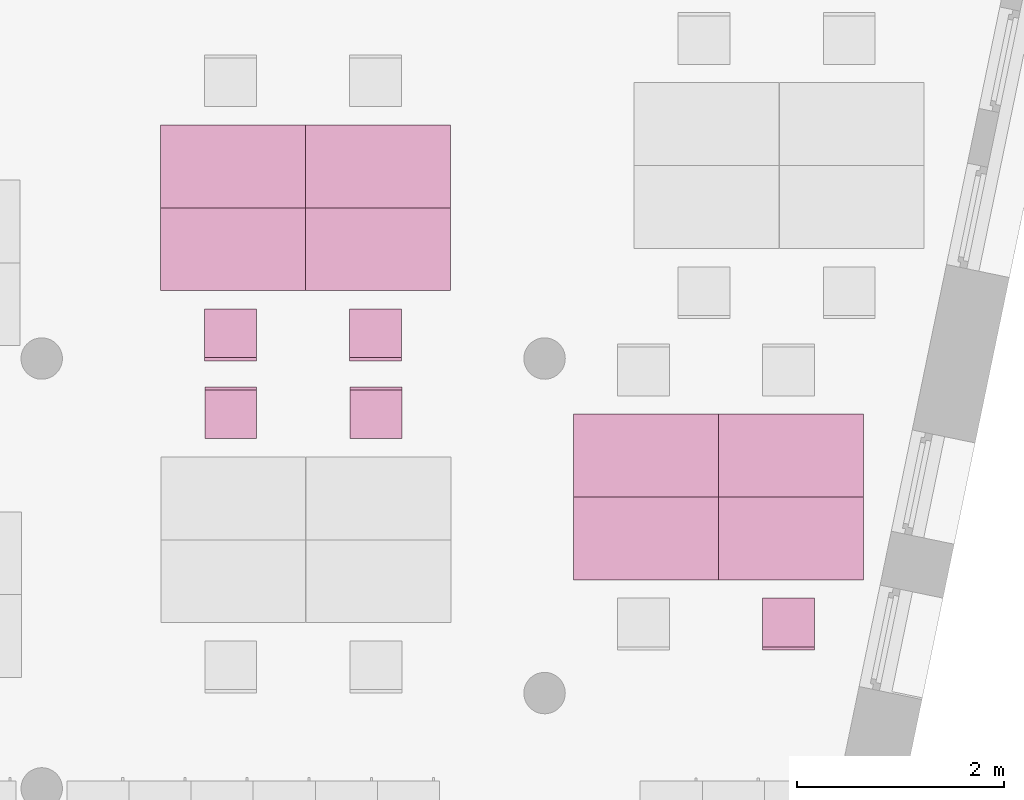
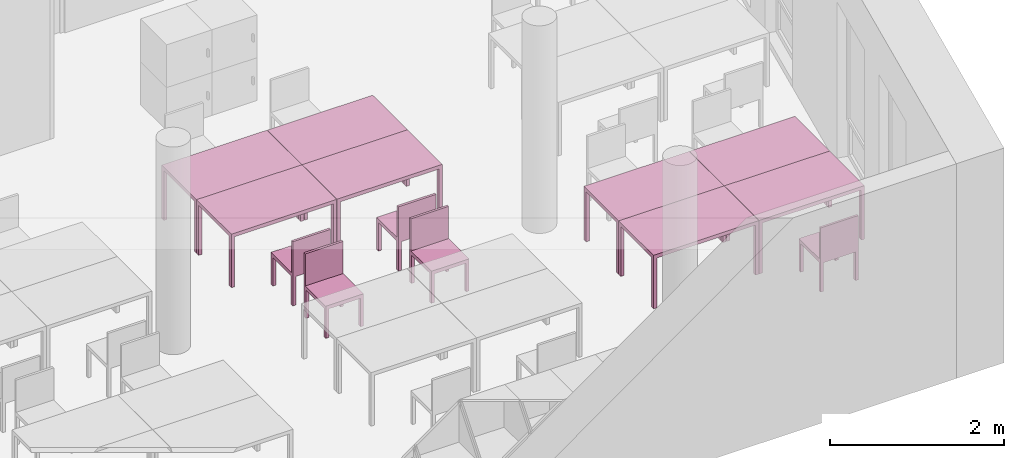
"""IFC4 building model written with IfcOpenShell, lengths in metres."""

import ifcopenshell
import ifcopenshell.guid

model = None  # the IFC model being written
_history = None  # IfcOwnerHistory: only IFC2X3 demands one
_inside = {}  # id of a spatial element -> (the spatial element, [elements in it])
_under = {}  # id of a project, library or spatial element -> (it, [spatial elements below it])
_declared = {}  # id of a project -> (the project, [libraries it declares])
_typed = {}  # id of a type object -> (the type object, [elements of that type])
_made_of = {}  # id of a material, layer set ... -> (it, [elements and type objects made of it])


def new_model(schema):
    """Start an empty IFC model of exactly this schema.

    Asked for "IFC4X3", IfcOpenShell would pick the latest addendum, in which some entities
    have other attributes; the version numbers below select the first issue.
    IFC2X3 requires an IfcOwnerHistory on every rooted entity: one is made here for all.
    """
    global model, _history
    if schema == "IFC4X3":
        model = ifcopenshell.file(schema_version=(4, 3, 0, 0))
    else:
        model = ifcopenshell.file(schema=schema)
    _inside.clear()
    _under.clear()
    _declared.clear()
    _typed.clear()
    _made_of.clear()
    _history = None
    if model.schema == "IFC2X3":
        org = make("IfcOrganization", Name="unknown")
        user = make(
            "IfcPersonAndOrganization",
            ThePerson=make("IfcPerson", FamilyName="unknown"),
            TheOrganization=org,
        )
        app = make(
            "IfcApplication",
            ApplicationDeveloper=org,
            Version="unknown",
            ApplicationFullName="unknown",
            ApplicationIdentifier="unknown",
        )
        _history = make(
            "IfcOwnerHistory",
            OwningUser=user,
            OwningApplication=app,
            ChangeAction="ADDED",
            CreationDate=0,
        )
    return model


def make(cls, **values):
    """One entity of the class cls with the attributes given. An attribute that is None is left unset."""
    return model.create_entity(
        cls, **{name: value for name, value in values.items() if value is not None}
    )


def entity(cls, *values):
    """Any entity or typed value of the class cls, its attributes in the order of the schema. None: left unset."""
    e = model.create_entity(cls)
    for i, value in enumerate(values):
        if value is not None:
            e[i] = value
    return e


def rooted(cls, **values):
    """An entity with a GlobalId (a new one), such as an element, a storey or a relation."""
    return make(cls, GlobalId=ifcopenshell.guid.new(), OwnerHistory=_history, **values)


def si_unit(unit_type, name, prefix=None):
    """IfcSIUnit, for example si_unit("LENGTHUNIT", "METRE", prefix="MILLI")."""
    return make("IfcSIUnit", UnitType=unit_type, Prefix=prefix, Name=name)


def converted_unit(unit_type, name, factor, base, dimensions=None, offset=None):
    """IfcConversionBasedUnit, such as the inch: factor (a typed value) times the base unit."""
    return make(
        "IfcConversionBasedUnit"
        if offset is None
        else "IfcConversionBasedUnitWithOffset",
        ConversionOffset=offset,
        Dimensions=None
        if dimensions is None
        else entity("IfcDimensionalExponents", *dimensions),
        UnitType=unit_type,
        Name=name,
        ConversionFactor=make(
            "IfcMeasureWithUnit", ValueComponent=factor, UnitComponent=base
        ),
    )


def derived_unit(unit_type, elements):
    """IfcDerivedUnit: a product of units, each with its exponent."""
    return make(
        "IfcDerivedUnit",
        Elements=[
            make("IfcDerivedUnitElement", Unit=unit, Exponent=power)
            for unit, power in elements
        ],
        UnitType=unit_type,
    )


def assignment(units):
    """IfcUnitAssignment: the units of a project."""
    return None if units is None else make("IfcUnitAssignment", Units=units)


def point(xyz):
    """IfcCartesianPoint."""
    return None if xyz is None else make("IfcCartesianPoint", Coordinates=xyz)


def direction(xyz):
    """IfcDirection."""
    return None if xyz is None else make("IfcDirection", DirectionRatios=xyz)


def frame(location, z_axis=None, x_axis=None):
    """IfcAxis2Placement3D, a coordinate frame: its origin and axes. An axis left out is left unset."""
    return make(
        "IfcAxis2Placement3D",
        Location=point(location),
        Axis=direction(z_axis),
        RefDirection=direction(x_axis),
    )


def origin():
    """The frame at (0, 0, 0) with its axes left unset."""
    return frame((0.0, 0.0, 0.0))


def place(relative_to, where):
    """IfcLocalPlacement: puts the frame where relative to a parent placement (None: the world)."""
    return make(
        "IfcLocalPlacement", PlacementRelTo=relative_to, RelativePlacement=where
    )


def context(
    kind, dimensions, precision=None, world=None, true_north=None, identifier=None
):
    """IfcGeometricRepresentationContext, for example the 3D "Model" context."""
    return make(
        "IfcGeometricRepresentationContext",
        ContextIdentifier=identifier,
        ContextType=kind,
        CoordinateSpaceDimension=dimensions,
        Precision=precision,
        WorldCoordinateSystem=world,
        TrueNorth=true_north,
    )


def subcontext(parent, identifier, kind, view, scale=None):
    """IfcGeometricRepresentationSubContext, for example "Body" below "Model"."""
    return make(
        "IfcGeometricRepresentationSubContext",
        ContextIdentifier=identifier,
        ContextType=kind,
        ParentContext=parent,
        TargetScale=scale,
        TargetView=view,
    )


def project(units=None, contexts=None):
    """IfcProject with its units and contexts."""
    return rooted(
        "IfcProject",
        Name="project",
        RepresentationContexts=contexts,
        UnitsInContext=assignment(units),
    )


def spatial(cls, under=None, at=None, **own):
    """A site, building, storey or space (cls), placed at a placement, below another one or the project."""
    s = rooted(cls, ObjectPlacement=at, **own)
    if under is not None:
        _under.setdefault(under.id(), (under, []))[1].append(s)
    return s


def faces_of(points, faces, orient=None, outer=None):
    """IfcFace entities. A face is a list of loops; a loop is a list of indices into points, from 0.

    orient and outer hold one flag for each loop. By default every Orientation is true, the
    first loop of a face is its IfcFaceOuterBound and the others are IfcFaceBound.
    """
    made = []
    for i, loops in enumerate(faces):
        bounds = []
        for j, loop in enumerate(loops):
            is_outer = j == 0 if outer is None else outer[i][j]
            bounds.append(
                make(
                    "IfcFaceOuterBound" if is_outer else "IfcFaceBound",
                    Bound=make("IfcPolyLoop", Polygon=[points[k] for k in loop]),
                    Orientation=True if orient is None else orient[i][j],
                )
            )
        made.append(make("IfcFace", Bounds=bounds))
    return made


def faceted_brep(points, faces, orient=None, outer=None, voids=None):
    """IfcFacetedBrep: a solid bounded by flat faces; with voids (closed shells), ...WithVoids."""
    shared = [point(p) for p in points]
    hull = make("IfcClosedShell", CfsFaces=faces_of(shared, faces, orient, outer))
    if voids is None:
        return make("IfcFacetedBrep", Outer=hull)
    return make(
        "IfcFacetedBrepWithVoids",
        Outer=hull,
        Voids=[
            make(cls, CfsFaces=faces_of(shared, fs, o, b)) for cls, fs, o, b in voids
        ],
    )


def shape(context_of_items, identifier, shape_type, items):
    """IfcShapeRepresentation: the items that make up one representation, for example the "Body"."""
    return make(
        "IfcShapeRepresentation",
        ContextOfItems=context_of_items,
        RepresentationIdentifier=identifier,
        RepresentationType=shape_type,
        Items=items,
    )


def made_of(thing, what):
    """Note that an element or type object is made of a material, layer set ...; save() writes the relation."""
    if what is not None:
        _made_of.setdefault(what.id(), (what, []))[1].append(thing)
    return thing


def element(
    cls,
    number,
    at=None,
    inside=None,
    cuts=None,
    type_object=None,
    material=None,
    context=None,
    identifier="Body",
    shape_type=None,
    held_by="IfcProductDefinitionShape",
    body=None,
    shapes=None,
    **own,
):
    """One element of the class cls, such as IfcWall. Its Tag is "e" and its number.

    at: its placement. inside: the storey or other place that contains it. cuts: it is an
    opening in that element (IfcRelVoidsElement). A single representation is given by context,
    identifier, shape_type and body (its items); several are given by shapes. held_by: the class
    of the entity that holds the representations. save() writes the other relations.
    """
    e = rooted(cls, Tag="e%d" % number, ObjectPlacement=at, **own)
    if body is not None:
        shapes = [shape(context, identifier, shape_type, body)]
    if shapes is not None:
        e.Representation = make(held_by, Representations=shapes)
    if inside is not None:
        _inside.setdefault(inside.id(), (inside, []))[1].append(e)
    if cuts is not None:
        rooted(
            "IfcRelVoidsElement", RelatingBuildingElement=cuts, RelatedOpeningElement=e
        )
    if type_object is not None:
        _typed.setdefault(type_object.id(), (type_object, []))[1].append(e)
    return made_of(e, material)


def aggregate(whole, parts):
    """IfcRelAggregates: a whole, such as a stair, and the parts it consists of."""
    return rooted("IfcRelAggregates", RelatingObject=whole, RelatedObjects=parts)


def save(model, path):
    """Write the relations noted so far, then the file.

    IfcRelAggregates (storeys below a building ...), IfcRelContainedInSpatialStructure (elements
    in a storey), IfcRelDefinesByType, IfcRelAssociatesMaterial and IfcRelDeclares: one each for
    every whole, place, type object, material and project.
    """
    for whole, parts in _under.values():
        aggregate(whole, parts)
    for where, things in _inside.values():
        rooted(
            "IfcRelContainedInSpatialStructure",
            RelatedElements=things,
            RelatingStructure=where,
        )
    for kind, things in _typed.values():
        rooted("IfcRelDefinesByType", RelatedObjects=things, RelatingType=kind)
    for what, things in _made_of.values():
        rooted("IfcRelAssociatesMaterial", RelatedObjects=things, RelatingMaterial=what)
    for by, libraries in _declared.values():
        rooted("IfcRelDeclares", RelatingContext=by, RelatedDefinitions=libraries)
    model.write(path)


model = new_model("IFC4")

# Units and contexts
model_context = context("Model", 3, precision=1e-05, world=origin())
body_context = subcontext(model_context, "Body", "Model", "MODEL_VIEW")
ifc_project = project(units=[si_unit("LENGTHUNIT", "METRE"), si_unit("AREAUNIT", "SQUARE_METRE"), si_unit("VOLUMEUNIT", "CUBIC_METRE"), si_unit("MASSUNIT", "GRAM", prefix="KILO"), converted_unit("PLANEANGLEUNIT", "DEGREE", entity("IfcPlaneAngleMeasure", 0.0174532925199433), si_unit("PLANEANGLEUNIT", "RADIAN"), dimensions=[0, 0, 0, 0, 0, 0, 0]), derived_unit("THERMALTRANSMITTANCEUNIT", [(si_unit("POWERUNIT", "WATT"), 1), (si_unit("THERMODYNAMICTEMPERATUREUNIT", "KELVIN"), -1), (si_unit("LENGTHUNIT", "METRE"), -2)]), derived_unit("VOLUMETRICFLOWRATEUNIT", [(si_unit("LENGTHUNIT", "METRE"), 3), (converted_unit("TIMEUNIT", "hour", entity("IfcTimeMeasure", 3600.0), si_unit("TIMEUNIT", "SECOND"), dimensions=[0, 0, 1, 0, 0, 0, 0]), -1), (si_unit("LENGTHUNIT", "METRE"), -1)])], contexts=[model_context])

# Building, storeys
building_placement = place(None, origin())
building = spatial("IfcBuilding", under=ifc_project, at=building_placement, Name="HABITATGE PLURIFAMILIAR", CompositionType="ELEMENT")
storey_1_placement = place(building_placement, frame((0.0, 0.0, 18.29)))
storey_1 = spatial("IfcBuildingStorey", under=building, at=storey_1_placement, Name="PLANTA CINQUENA", CompositionType="ELEMENT", Elevation=18.29)
storey_2_placement = place(storey_1_placement, frame((0.0, 0.0, 15.28)))
storey_2 = spatial("IfcBuildingStorey", under=storey_1, at=storey_2_placement, Name="NOU", CompositionType="PARTIAL")

# Furniture
furniture_1_placement = place(storey_2_placement, frame((418.685770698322, 19.254289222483, -15.28)))
element("IfcFurniture", 1, at=furniture_1_placement, inside=storey_2, Name="Taula 140X80_P5", context=body_context, shape_type="Brep", body=[
    faceted_brep([(0.04375, 0.05, 0.0), (0.0, 0.05, 0.0), (0.0, 0.0, 0.0), (0.04375, 0.0, 0.0), (0.04375, 0.0, 0.7), (0.0, 0.0, 0.7), (0.0, 0.05, 0.7), (0.04375, 0.05, 0.7)], [[[0, 1, 2, 3]], [[4, 5, 6, 7]], [[3, 4, 7, 0]], [[2, 5, 4, 3]], [[1, 6, 5, 2]], [[0, 7, 6, 1]]], orient=[[False], [False], [False], [False], [False], [False]]),
    faceted_brep([(0.04375, 0.800069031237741, 0.0), (0.0, 0.800069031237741, 0.0), (0.0, 0.750069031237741, 0.0), (0.04375, 0.750069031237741, 0.0), (0.04375, 0.750069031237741, 0.7), (0.0, 0.750069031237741, 0.7), (0.0, 0.800069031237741, 0.7), (0.04375, 0.800069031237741, 0.7)], [[[0, 1, 2, 3]], [[4, 5, 6, 7]], [[3, 4, 7, 0]], [[2, 5, 4, 3]], [[1, 6, 5, 2]], [[0, 7, 6, 1]]], orient=[[False], [False], [False], [False], [False], [False]]),
    faceted_brep([(1.39732768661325, 0.800069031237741, 0.7), (0.0, 0.800069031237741, 0.7), (0.0, 0.0, 0.7), (1.39732768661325, 0.0, 0.7), (1.39732768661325, 0.0, 0.75), (0.0, 0.0, 0.75), (0.0, 0.800069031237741, 0.75), (1.39732768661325, 0.800069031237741, 0.75)], [[[0, 1, 2, 3]], [[4, 5, 6, 7]], [[3, 4, 7, 0]], [[2, 5, 4, 3]], [[1, 6, 5, 2]], [[0, 7, 6, 1]]], orient=[[False], [False], [False], [False], [False], [False]]),
    faceted_brep([(1.39732768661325, 0.05, 0.0), (1.35357768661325, 0.05, 0.0), (1.35357768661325, 0.0, 0.0), (1.39732768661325, 0.0, 0.0), (1.39732768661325, 0.0, 0.7), (1.35357768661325, 0.0, 0.7), (1.35357768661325, 0.05, 0.7), (1.39732768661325, 0.05, 0.7)], [[[0, 1, 2, 3]], [[4, 5, 6, 7]], [[3, 4, 7, 0]], [[2, 5, 4, 3]], [[1, 6, 5, 2]], [[0, 7, 6, 1]]], orient=[[False], [False], [False], [False], [False], [False]]),
    faceted_brep([(1.39732768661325, 0.800069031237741, 0.0), (1.35357768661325, 0.800069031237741, 0.0), (1.35357768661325, 0.750069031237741, 0.0), (1.39732768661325, 0.750069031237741, 0.0), (1.39732768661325, 0.750069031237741, 0.7), (1.35357768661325, 0.750069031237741, 0.7), (1.35357768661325, 0.800069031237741, 0.7), (1.39732768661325, 0.800069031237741, 0.7)], [[[0, 1, 2, 3]], [[4, 5, 6, 7]], [[3, 4, 7, 0]], [[2, 5, 4, 3]], [[1, 6, 5, 2]], [[0, 7, 6, 1]]], orient=[[False], [False], [False], [False], [False], [False]]),
])
furniture_2_placement = place(storey_2_placement, frame((417.284591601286, 19.254289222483, -15.28)))
element("IfcFurniture", 2, at=furniture_2_placement, inside=storey_2, Name="Taula 140X80_P5", context=body_context, shape_type="Brep", body=[
    faceted_brep([(0.04375, 0.05, 0.0), (0.0, 0.05, 0.0), (0.0, 0.0, 0.0), (0.04375, 0.0, 0.0), (0.04375, 0.0, 0.7), (0.0, 0.0, 0.7), (0.0, 0.05, 0.7), (0.04375, 0.05, 0.7)], [[[0, 1, 2, 3]], [[4, 5, 6, 7]], [[3, 4, 7, 0]], [[2, 5, 4, 3]], [[1, 6, 5, 2]], [[0, 7, 6, 1]]], orient=[[False], [False], [False], [False], [False], [False]]),
    faceted_brep([(0.04375, 0.800069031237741, 0.0), (0.0, 0.800069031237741, 0.0), (0.0, 0.750069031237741, 0.0), (0.04375, 0.750069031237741, 0.0), (0.04375, 0.750069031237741, 0.7), (0.0, 0.750069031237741, 0.7), (0.0, 0.800069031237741, 0.7), (0.04375, 0.800069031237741, 0.7)], [[[0, 1, 2, 3]], [[4, 5, 6, 7]], [[3, 4, 7, 0]], [[2, 5, 4, 3]], [[1, 6, 5, 2]], [[0, 7, 6, 1]]], orient=[[False], [False], [False], [False], [False], [False]]),
    faceted_brep([(1.39732768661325, 0.800069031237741, 0.7), (0.0, 0.800069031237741, 0.7), (0.0, 0.0, 0.7), (1.39732768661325, 0.0, 0.7), (1.39732768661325, 0.0, 0.75), (0.0, 0.0, 0.75), (0.0, 0.800069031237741, 0.75), (1.39732768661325, 0.800069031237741, 0.75)], [[[0, 1, 2, 3]], [[4, 5, 6, 7]], [[3, 4, 7, 0]], [[2, 5, 4, 3]], [[1, 6, 5, 2]], [[0, 7, 6, 1]]], orient=[[False], [False], [False], [False], [False], [False]]),
    faceted_brep([(1.39732768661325, 0.05, 0.0), (1.35357768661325, 0.05, 0.0), (1.35357768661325, 0.0, 0.0), (1.39732768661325, 0.0, 0.0), (1.39732768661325, 0.0, 0.7), (1.35357768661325, 0.0, 0.7), (1.35357768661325, 0.05, 0.7), (1.39732768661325, 0.05, 0.7)], [[[0, 1, 2, 3]], [[4, 5, 6, 7]], [[3, 4, 7, 0]], [[2, 5, 4, 3]], [[1, 6, 5, 2]], [[0, 7, 6, 1]]], orient=[[False], [False], [False], [False], [False], [False]]),
    faceted_brep([(1.39732768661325, 0.800069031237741, 0.0), (1.35357768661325, 0.800069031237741, 0.0), (1.35357768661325, 0.750069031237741, 0.0), (1.39732768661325, 0.750069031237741, 0.0), (1.39732768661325, 0.750069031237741, 0.7), (1.35357768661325, 0.750069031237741, 0.7), (1.35357768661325, 0.800069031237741, 0.7), (1.39732768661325, 0.800069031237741, 0.7)], [[[0, 1, 2, 3]], [[4, 5, 6, 7]], [[3, 4, 7, 0]], [[2, 5, 4, 3]], [[1, 6, 5, 2]], [[0, 7, 6, 1]]], orient=[[False], [False], [False], [False], [False], [False]]),
])
furniture_3_placement = place(storey_2_placement, frame((418.685770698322, 18.4542201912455, -15.28)))
element("IfcFurniture", 3, at=furniture_3_placement, inside=storey_2, Name="Taula 140X80_P5", context=body_context, shape_type="Brep", body=[
    faceted_brep([(0.04375, 0.750069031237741, 0.0), (0.04375, 0.800069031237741, 0.0), (0.0, 0.800069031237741, 0.0), (0.0, 0.750069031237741, 0.0), (0.04375, 0.800069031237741, 0.7), (0.04375, 0.750069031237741, 0.7), (0.0, 0.750069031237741, 0.7), (0.0, 0.800069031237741, 0.7)], [[[0, 1, 2, 3]], [[4, 5, 6, 7]], [[1, 0, 5, 4]], [[2, 1, 4, 7]], [[3, 2, 7, 6]], [[0, 3, 6, 5]]], orient=[[False], [False], [False], [False], [False], [False]]),
    faceted_brep([(0.04375, 0.0, 0.0), (0.04375, 0.05, 0.0), (0.0, 0.05, 0.0), (0.0, 0.0, 0.0), (0.04375, 0.05, 0.7), (0.04375, 0.0, 0.7), (0.0, 0.0, 0.7), (0.0, 0.05, 0.7)], [[[0, 1, 2, 3]], [[4, 5, 6, 7]], [[1, 0, 5, 4]], [[2, 1, 4, 7]], [[3, 2, 7, 6]], [[0, 3, 6, 5]]], orient=[[False], [False], [False], [False], [False], [False]]),
    faceted_brep([(1.39732768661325, 0.0, 0.7), (1.39732768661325, 0.800069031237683, 0.7), (0.0, 0.800069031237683, 0.7), (0.0, 0.0, 0.7), (1.39732768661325, 0.800069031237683, 0.75), (1.39732768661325, 0.0, 0.75), (0.0, 0.0, 0.75), (0.0, 0.800069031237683, 0.75)], [[[0, 1, 2, 3]], [[4, 5, 6, 7]], [[1, 0, 5, 4]], [[2, 1, 4, 7]], [[3, 2, 7, 6]], [[0, 3, 6, 5]]], orient=[[False], [False], [False], [False], [False], [False]]),
    faceted_brep([(1.39732768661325, 0.750069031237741, 0.0), (1.39732768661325, 0.800069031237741, 0.0), (1.35357768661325, 0.800069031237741, 0.0), (1.35357768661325, 0.750069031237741, 0.0), (1.39732768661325, 0.800069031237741, 0.7), (1.39732768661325, 0.750069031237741, 0.7), (1.35357768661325, 0.750069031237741, 0.7), (1.35357768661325, 0.800069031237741, 0.7)], [[[0, 1, 2, 3]], [[4, 5, 6, 7]], [[1, 0, 5, 4]], [[2, 1, 4, 7]], [[3, 2, 7, 6]], [[0, 3, 6, 5]]], orient=[[False], [False], [False], [False], [False], [False]]),
    faceted_brep([(1.39732768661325, 0.0, 0.0), (1.39732768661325, 0.05, 0.0), (1.35357768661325, 0.05, 0.0), (1.35357768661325, 0.0, 0.0), (1.39732768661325, 0.05, 0.7), (1.39732768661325, 0.0, 0.7), (1.35357768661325, 0.0, 0.7), (1.35357768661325, 0.05, 0.7)], [[[0, 1, 2, 3]], [[4, 5, 6, 7]], [[1, 0, 5, 4]], [[2, 1, 4, 7]], [[3, 2, 7, 6]], [[0, 3, 6, 5]]], orient=[[False], [False], [False], [False], [False], [False]]),
])
furniture_4_placement = place(storey_2_placement, frame((417.284591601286, 18.4542201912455, -15.28)))
element("IfcFurniture", 4, at=furniture_4_placement, inside=storey_2, Name="Taula 140X80_P5", context=body_context, shape_type="Brep", body=[
    faceted_brep([(0.04375, 0.750069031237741, 0.0), (0.04375, 0.800069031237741, 0.0), (0.0, 0.800069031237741, 0.0), (0.0, 0.750069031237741, 0.0), (0.04375, 0.800069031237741, 0.7), (0.04375, 0.750069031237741, 0.7), (0.0, 0.750069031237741, 0.7), (0.0, 0.800069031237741, 0.7)], [[[0, 1, 2, 3]], [[4, 5, 6, 7]], [[1, 0, 5, 4]], [[2, 1, 4, 7]], [[3, 2, 7, 6]], [[0, 3, 6, 5]]], orient=[[False], [False], [False], [False], [False], [False]]),
    faceted_brep([(0.04375, 0.0, 0.0), (0.04375, 0.05, 0.0), (0.0, 0.05, 0.0), (0.0, 0.0, 0.0), (0.04375, 0.05, 0.7), (0.04375, 0.0, 0.7), (0.0, 0.0, 0.7), (0.0, 0.05, 0.7)], [[[0, 1, 2, 3]], [[4, 5, 6, 7]], [[1, 0, 5, 4]], [[2, 1, 4, 7]], [[3, 2, 7, 6]], [[0, 3, 6, 5]]], orient=[[False], [False], [False], [False], [False], [False]]),
    faceted_brep([(1.39732768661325, 0.0, 0.7), (1.39732768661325, 0.800069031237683, 0.7), (0.0, 0.800069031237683, 0.7), (0.0, 0.0, 0.7), (1.39732768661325, 0.800069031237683, 0.75), (1.39732768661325, 0.0, 0.75), (0.0, 0.0, 0.75), (0.0, 0.800069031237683, 0.75)], [[[0, 1, 2, 3]], [[4, 5, 6, 7]], [[1, 0, 5, 4]], [[2, 1, 4, 7]], [[3, 2, 7, 6]], [[0, 3, 6, 5]]], orient=[[False], [False], [False], [False], [False], [False]]),
    faceted_brep([(1.39732768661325, 0.750069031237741, 0.0), (1.39732768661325, 0.800069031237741, 0.0), (1.35357768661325, 0.800069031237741, 0.0), (1.35357768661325, 0.750069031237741, 0.0), (1.39732768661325, 0.800069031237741, 0.7), (1.39732768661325, 0.750069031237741, 0.7), (1.35357768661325, 0.750069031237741, 0.7), (1.35357768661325, 0.800069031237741, 0.7)], [[[0, 1, 2, 3]], [[4, 5, 6, 7]], [[1, 0, 5, 4]], [[2, 1, 4, 7]], [[3, 2, 7, 6]], [[0, 3, 6, 5]]], orient=[[False], [False], [False], [False], [False], [False]]),
    faceted_brep([(1.39732768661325, 0.0, 0.0), (1.39732768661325, 0.05, 0.0), (1.35357768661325, 0.05, 0.0), (1.35357768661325, 0.0, 0.0), (1.39732768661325, 0.05, 0.7), (1.39732768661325, 0.0, 0.7), (1.35357768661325, 0.0, 0.7), (1.35357768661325, 0.05, 0.7)], [[[0, 1, 2, 3]], [[4, 5, 6, 7]], [[1, 0, 5, 4]], [[2, 1, 4, 7]], [[3, 2, 7, 6]], [[0, 3, 6, 5]]], orient=[[False], [False], [False], [False], [False], [False]]),
])
furniture_5_placement = place(storey_2_placement, frame((422.673280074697, 16.4621130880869, -15.28)))
element("IfcFurniture", 5, at=furniture_5_placement, inside=storey_2, Name="Taula 140X80_P5", context=body_context, shape_type="Brep", body=[
    faceted_brep([(0.04375, 0.05, 0.0), (0.0, 0.05, 0.0), (0.0, 0.0, 0.0), (0.04375, 0.0, 0.0), (0.04375, 0.0, 0.7), (0.0, 0.0, 0.7), (0.0, 0.05, 0.7), (0.04375, 0.05, 0.7)], [[[0, 1, 2, 3]], [[4, 5, 6, 7]], [[3, 4, 7, 0]], [[2, 5, 4, 3]], [[1, 6, 5, 2]], [[0, 7, 6, 1]]], orient=[[False], [False], [False], [False], [False], [False]]),
    faceted_brep([(0.04375, 0.800069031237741, 0.0), (0.0, 0.800069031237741, 0.0), (0.0, 0.750069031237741, 0.0), (0.04375, 0.750069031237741, 0.0), (0.04375, 0.750069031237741, 0.7), (0.0, 0.750069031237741, 0.7), (0.0, 0.800069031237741, 0.7), (0.04375, 0.800069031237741, 0.7)], [[[0, 1, 2, 3]], [[4, 5, 6, 7]], [[3, 4, 7, 0]], [[2, 5, 4, 3]], [[1, 6, 5, 2]], [[0, 7, 6, 1]]], orient=[[False], [False], [False], [False], [False], [False]]),
    faceted_brep([(1.39732768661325, 0.800069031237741, 0.7), (0.0, 0.800069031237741, 0.7), (0.0, 0.0, 0.7), (1.39732768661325, 0.0, 0.7), (1.39732768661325, 0.0, 0.75), (0.0, 0.0, 0.75), (0.0, 0.800069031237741, 0.75), (1.39732768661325, 0.800069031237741, 0.75)], [[[0, 1, 2, 3]], [[4, 5, 6, 7]], [[3, 4, 7, 0]], [[2, 5, 4, 3]], [[1, 6, 5, 2]], [[0, 7, 6, 1]]], orient=[[False], [False], [False], [False], [False], [False]]),
    faceted_brep([(1.39732768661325, 0.05, 0.0), (1.35357768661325, 0.05, 0.0), (1.35357768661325, 0.0, 0.0), (1.39732768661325, 0.0, 0.0), (1.39732768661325, 0.0, 0.7), (1.35357768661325, 0.0, 0.7), (1.35357768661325, 0.05, 0.7), (1.39732768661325, 0.05, 0.7)], [[[0, 1, 2, 3]], [[4, 5, 6, 7]], [[3, 4, 7, 0]], [[2, 5, 4, 3]], [[1, 6, 5, 2]], [[0, 7, 6, 1]]], orient=[[False], [False], [False], [False], [False], [False]]),
    faceted_brep([(1.39732768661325, 0.800069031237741, 0.0), (1.35357768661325, 0.800069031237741, 0.0), (1.35357768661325, 0.750069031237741, 0.0), (1.39732768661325, 0.750069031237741, 0.0), (1.39732768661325, 0.750069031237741, 0.7), (1.35357768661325, 0.750069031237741, 0.7), (1.35357768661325, 0.800069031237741, 0.7), (1.39732768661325, 0.800069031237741, 0.7)], [[[0, 1, 2, 3]], [[4, 5, 6, 7]], [[3, 4, 7, 0]], [[2, 5, 4, 3]], [[1, 6, 5, 2]], [[0, 7, 6, 1]]], orient=[[False], [False], [False], [False], [False], [False]]),
])
furniture_6_placement = place(storey_2_placement, frame((421.272100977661, 16.4621130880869, -15.28)))
element("IfcFurniture", 6, at=furniture_6_placement, inside=storey_2, Name="Taula 140X80_P5", context=body_context, shape_type="Brep", body=[
    faceted_brep([(0.04375, 0.05, 0.0), (0.0, 0.05, 0.0), (0.0, 0.0, 0.0), (0.04375, 0.0, 0.0), (0.04375, 0.0, 0.7), (0.0, 0.0, 0.7), (0.0, 0.05, 0.7), (0.04375, 0.05, 0.7)], [[[0, 1, 2, 3]], [[4, 5, 6, 7]], [[3, 4, 7, 0]], [[2, 5, 4, 3]], [[1, 6, 5, 2]], [[0, 7, 6, 1]]], orient=[[False], [False], [False], [False], [False], [False]]),
    faceted_brep([(0.04375, 0.800069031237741, 0.0), (0.0, 0.800069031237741, 0.0), (0.0, 0.750069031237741, 0.0), (0.04375, 0.750069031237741, 0.0), (0.04375, 0.750069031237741, 0.7), (0.0, 0.750069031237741, 0.7), (0.0, 0.800069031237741, 0.7), (0.04375, 0.800069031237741, 0.7)], [[[0, 1, 2, 3]], [[4, 5, 6, 7]], [[3, 4, 7, 0]], [[2, 5, 4, 3]], [[1, 6, 5, 2]], [[0, 7, 6, 1]]], orient=[[False], [False], [False], [False], [False], [False]]),
    faceted_brep([(1.39732768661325, 0.800069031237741, 0.7), (0.0, 0.800069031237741, 0.7), (0.0, 0.0, 0.7), (1.39732768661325, 0.0, 0.7), (1.39732768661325, 0.0, 0.75), (0.0, 0.0, 0.75), (0.0, 0.800069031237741, 0.75), (1.39732768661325, 0.800069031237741, 0.75)], [[[0, 1, 2, 3]], [[4, 5, 6, 7]], [[3, 4, 7, 0]], [[2, 5, 4, 3]], [[1, 6, 5, 2]], [[0, 7, 6, 1]]], orient=[[False], [False], [False], [False], [False], [False]]),
    faceted_brep([(1.39732768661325, 0.05, 0.0), (1.35357768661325, 0.05, 0.0), (1.35357768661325, 0.0, 0.0), (1.39732768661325, 0.0, 0.0), (1.39732768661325, 0.0, 0.7), (1.35357768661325, 0.0, 0.7), (1.35357768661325, 0.05, 0.7), (1.39732768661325, 0.05, 0.7)], [[[0, 1, 2, 3]], [[4, 5, 6, 7]], [[3, 4, 7, 0]], [[2, 5, 4, 3]], [[1, 6, 5, 2]], [[0, 7, 6, 1]]], orient=[[False], [False], [False], [False], [False], [False]]),
    faceted_brep([(1.39732768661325, 0.800069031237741, 0.0), (1.35357768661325, 0.800069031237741, 0.0), (1.35357768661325, 0.750069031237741, 0.0), (1.39732768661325, 0.750069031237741, 0.0), (1.39732768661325, 0.750069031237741, 0.7), (1.35357768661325, 0.750069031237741, 0.7), (1.35357768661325, 0.800069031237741, 0.7), (1.39732768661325, 0.800069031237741, 0.7)], [[[0, 1, 2, 3]], [[4, 5, 6, 7]], [[3, 4, 7, 0]], [[2, 5, 4, 3]], [[1, 6, 5, 2]], [[0, 7, 6, 1]]], orient=[[False], [False], [False], [False], [False], [False]]),
])
furniture_7_placement = place(storey_2_placement, frame((422.673280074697, 15.6620440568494, -15.28)))
element("IfcFurniture", 7, at=furniture_7_placement, inside=storey_2, Name="Taula 140X80_P5", context=body_context, shape_type="Brep", body=[
    faceted_brep([(0.04375, 0.750069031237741, 0.0), (0.04375, 0.800069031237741, 0.0), (0.0, 0.800069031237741, 0.0), (0.0, 0.750069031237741, 0.0), (0.04375, 0.800069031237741, 0.7), (0.04375, 0.750069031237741, 0.7), (0.0, 0.750069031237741, 0.7), (0.0, 0.800069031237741, 0.7)], [[[0, 1, 2, 3]], [[4, 5, 6, 7]], [[1, 0, 5, 4]], [[2, 1, 4, 7]], [[3, 2, 7, 6]], [[0, 3, 6, 5]]], orient=[[False], [False], [False], [False], [False], [False]]),
    faceted_brep([(0.04375, 0.0, 0.0), (0.04375, 0.05, 0.0), (0.0, 0.05, 0.0), (0.0, 0.0, 0.0), (0.04375, 0.05, 0.7), (0.04375, 0.0, 0.7), (0.0, 0.0, 0.7), (0.0, 0.05, 0.7)], [[[0, 1, 2, 3]], [[4, 5, 6, 7]], [[1, 0, 5, 4]], [[2, 1, 4, 7]], [[3, 2, 7, 6]], [[0, 3, 6, 5]]], orient=[[False], [False], [False], [False], [False], [False]]),
    faceted_brep([(1.39732768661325, 0.0, 0.7), (1.39732768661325, 0.800069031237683, 0.7), (0.0, 0.800069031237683, 0.7), (0.0, 0.0, 0.7), (1.39732768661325, 0.800069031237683, 0.75), (1.39732768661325, 0.0, 0.75), (0.0, 0.0, 0.75), (0.0, 0.800069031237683, 0.75)], [[[0, 1, 2, 3]], [[4, 5, 6, 7]], [[1, 0, 5, 4]], [[2, 1, 4, 7]], [[3, 2, 7, 6]], [[0, 3, 6, 5]]], orient=[[False], [False], [False], [False], [False], [False]]),
    faceted_brep([(1.39732768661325, 0.750069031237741, 0.0), (1.39732768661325, 0.800069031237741, 0.0), (1.35357768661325, 0.800069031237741, 0.0), (1.35357768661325, 0.750069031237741, 0.0), (1.39732768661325, 0.800069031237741, 0.7), (1.39732768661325, 0.750069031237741, 0.7), (1.35357768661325, 0.750069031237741, 0.7), (1.35357768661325, 0.800069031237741, 0.7)], [[[0, 1, 2, 3]], [[4, 5, 6, 7]], [[1, 0, 5, 4]], [[2, 1, 4, 7]], [[3, 2, 7, 6]], [[0, 3, 6, 5]]], orient=[[False], [False], [False], [False], [False], [False]]),
    faceted_brep([(1.39732768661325, 0.0, 0.0), (1.39732768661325, 0.05, 0.0), (1.35357768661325, 0.05, 0.0), (1.35357768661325, 0.0, 0.0), (1.39732768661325, 0.05, 0.7), (1.39732768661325, 0.0, 0.7), (1.35357768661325, 0.0, 0.7), (1.35357768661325, 0.05, 0.7)], [[[0, 1, 2, 3]], [[4, 5, 6, 7]], [[1, 0, 5, 4]], [[2, 1, 4, 7]], [[3, 2, 7, 6]], [[0, 3, 6, 5]]], orient=[[False], [False], [False], [False], [False], [False]]),
])
furniture_8_placement = place(storey_2_placement, frame((421.272100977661, 15.6620440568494, -15.28)))
element("IfcFurniture", 8, at=furniture_8_placement, inside=storey_2, Name="Taula 140X80_P5", context=body_context, shape_type="Brep", body=[
    faceted_brep([(0.04375, 0.750069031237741, 0.0), (0.04375, 0.800069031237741, 0.0), (0.0, 0.800069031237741, 0.0), (0.0, 0.750069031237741, 0.0), (0.04375, 0.800069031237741, 0.7), (0.04375, 0.750069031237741, 0.7), (0.0, 0.750069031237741, 0.7), (0.0, 0.800069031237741, 0.7)], [[[0, 1, 2, 3]], [[4, 5, 6, 7]], [[1, 0, 5, 4]], [[2, 1, 4, 7]], [[3, 2, 7, 6]], [[0, 3, 6, 5]]], orient=[[False], [False], [False], [False], [False], [False]]),
    faceted_brep([(0.04375, 0.0, 0.0), (0.04375, 0.05, 0.0), (0.0, 0.05, 0.0), (0.0, 0.0, 0.0), (0.04375, 0.05, 0.7), (0.04375, 0.0, 0.7), (0.0, 0.0, 0.7), (0.0, 0.05, 0.7)], [[[0, 1, 2, 3]], [[4, 5, 6, 7]], [[1, 0, 5, 4]], [[2, 1, 4, 7]], [[3, 2, 7, 6]], [[0, 3, 6, 5]]], orient=[[False], [False], [False], [False], [False], [False]]),
    faceted_brep([(1.39732768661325, 0.0, 0.7), (1.39732768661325, 0.800069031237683, 0.7), (0.0, 0.800069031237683, 0.7), (0.0, 0.0, 0.7), (1.39732768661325, 0.800069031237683, 0.75), (1.39732768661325, 0.0, 0.75), (0.0, 0.0, 0.75), (0.0, 0.800069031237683, 0.75)], [[[0, 1, 2, 3]], [[4, 5, 6, 7]], [[1, 0, 5, 4]], [[2, 1, 4, 7]], [[3, 2, 7, 6]], [[0, 3, 6, 5]]], orient=[[False], [False], [False], [False], [False], [False]]),
    faceted_brep([(1.39732768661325, 0.750069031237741, 0.0), (1.39732768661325, 0.800069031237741, 0.0), (1.35357768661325, 0.800069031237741, 0.0), (1.35357768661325, 0.750069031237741, 0.0), (1.39732768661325, 0.800069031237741, 0.7), (1.39732768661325, 0.750069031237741, 0.7), (1.35357768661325, 0.750069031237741, 0.7), (1.35357768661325, 0.800069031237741, 0.7)], [[[0, 1, 2, 3]], [[4, 5, 6, 7]], [[1, 0, 5, 4]], [[2, 1, 4, 7]], [[3, 2, 7, 6]], [[0, 3, 6, 5]]], orient=[[False], [False], [False], [False], [False], [False]]),
    faceted_brep([(1.39732768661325, 0.0, 0.0), (1.39732768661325, 0.05, 0.0), (1.35357768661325, 0.05, 0.0), (1.35357768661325, 0.0, 0.0), (1.39732768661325, 0.05, 0.7), (1.39732768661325, 0.0, 0.7), (1.35357768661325, 0.0, 0.7), (1.35357768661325, 0.05, 0.7)], [[[0, 1, 2, 3]], [[4, 5, 6, 7]], [[1, 0, 5, 4]], [[2, 1, 4, 7]], [[3, 2, 7, 6]], [[0, 3, 6, 5]]], orient=[[False], [False], [False], [False], [False], [False]]),
])
furniture_9_placement = place(storey_2_placement, frame((419.110800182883, 17.7775348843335, -15.2746385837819)))
element("IfcFurniture", 9, at=furniture_9_placement, inside=storey_2, Name="Cadira d'Oficina_P5", context=body_context, shape_type="Brep", body=[
    faceted_brep([(0.0, 0.500000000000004, 0.4), (0.0, 0.0, 0.4), (0.5, 0.0, 0.4), (0.5, 0.5, 0.4), (0.0, 0.0, 0.45), (0.0, 0.500000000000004, 0.45), (0.5, 0.5, 0.45), (0.5, 0.0, 0.45)], [[[0, 1, 2, 3]], [[4, 5, 6, 7]], [[1, 0, 5, 4]], [[2, 1, 4, 7]], [[3, 2, 7, 6]], [[0, 3, 6, 5]]], orient=[[False], [False], [False], [False], [False], [False]]),
    faceted_brep([(0.5, 0.04, 0.0), (0.46, 0.0400000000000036, 0.0), (0.46, 0.0, 0.0), (0.5, 0.0, 0.0), (0.46, 0.0400000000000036, 0.4), (0.5, 0.04, 0.4), (0.5, 0.0, 0.4), (0.46, 0.0, 0.4)], [[[0, 1, 2, 3]], [[4, 5, 6, 7]], [[1, 0, 5, 4]], [[2, 1, 4, 7]], [[3, 2, 7, 6]], [[0, 3, 6, 5]]], orient=[[False], [False], [False], [False], [False], [False]]),
    faceted_brep([(0.5, 0.5, 0.0), (0.46, 0.500000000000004, 0.0), (0.46, 0.460000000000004, 0.0), (0.5, 0.46, 0.0), (0.46, 0.500000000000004, 0.4), (0.5, 0.5, 0.4), (0.5, 0.46, 0.4), (0.46, 0.460000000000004, 0.4)], [[[0, 1, 2, 3]], [[4, 5, 6, 7]], [[1, 0, 5, 4]], [[2, 1, 4, 7]], [[3, 2, 7, 6]], [[0, 3, 6, 5]]], orient=[[False], [False], [False], [False], [False], [False]]),
    faceted_brep([(0.04, 0.0400000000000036, 0.0), (0.0, 0.0400000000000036, 0.0), (0.0, 0.0, 0.0), (0.04, 0.0, 0.0), (0.0, 0.0400000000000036, 0.4), (0.04, 0.0400000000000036, 0.4), (0.04, 0.0, 0.4), (0.0, 0.0, 0.4)], [[[0, 1, 2, 3]], [[4, 5, 6, 7]], [[1, 0, 5, 4]], [[2, 1, 4, 7]], [[3, 2, 7, 6]], [[0, 3, 6, 5]]], orient=[[False], [False], [False], [False], [False], [False]]),
    faceted_brep([(0.04, 0.500000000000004, 0.0), (0.0, 0.500000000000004, 0.0), (0.0, 0.460000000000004, 0.0), (0.04, 0.460000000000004, 0.0), (0.0, 0.500000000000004, 0.4), (0.04, 0.500000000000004, 0.4), (0.04, 0.460000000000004, 0.4), (0.0, 0.460000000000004, 0.4)], [[[0, 1, 2, 3]], [[4, 5, 6, 7]], [[1, 0, 5, 4]], [[2, 1, 4, 7]], [[3, 2, 7, 6]], [[0, 3, 6, 5]]], orient=[[False], [False], [False], [False], [False], [False]]),
    faceted_brep([(0.5, 0.03, 0.45), (0.0, 0.0300000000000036, 0.45), (0.0, 0.0, 0.45), (0.5, 0.0, 0.45), (0.0, 0.0300000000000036, 0.9), (0.5, 0.03, 0.9), (0.5, 0.0, 0.9), (0.0, 0.0, 0.9)], [[[0, 1, 2, 3]], [[4, 5, 6, 7]], [[1, 0, 5, 4]], [[2, 1, 4, 7]], [[3, 2, 7, 6]], [[0, 3, 6, 5]]], orient=[[False], [False], [False], [False], [False], [False]]),
])
furniture_10_placement = place(storey_2_placement, frame((417.709621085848, 17.7775348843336, -15.2746385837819)))
element("IfcFurniture", 10, at=furniture_10_placement, inside=storey_2, Name="Cadira d'Oficina_P5", context=body_context, shape_type="Brep", body=[
    faceted_brep([(0.0, 0.500000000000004, 0.4), (0.0, 0.0, 0.4), (0.5, 0.0, 0.4), (0.5, 0.5, 0.4), (0.0, 0.0, 0.45), (0.0, 0.500000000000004, 0.45), (0.5, 0.5, 0.45), (0.5, 0.0, 0.45)], [[[0, 1, 2, 3]], [[4, 5, 6, 7]], [[1, 0, 5, 4]], [[2, 1, 4, 7]], [[3, 2, 7, 6]], [[0, 3, 6, 5]]], orient=[[False], [False], [False], [False], [False], [False]]),
    faceted_brep([(0.5, 0.04, 0.0), (0.46, 0.0400000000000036, 0.0), (0.46, 0.0, 0.0), (0.5, 0.0, 0.0), (0.46, 0.0400000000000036, 0.4), (0.5, 0.04, 0.4), (0.5, 0.0, 0.4), (0.46, 0.0, 0.4)], [[[0, 1, 2, 3]], [[4, 5, 6, 7]], [[1, 0, 5, 4]], [[2, 1, 4, 7]], [[3, 2, 7, 6]], [[0, 3, 6, 5]]], orient=[[False], [False], [False], [False], [False], [False]]),
    faceted_brep([(0.5, 0.5, 0.0), (0.46, 0.500000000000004, 0.0), (0.46, 0.460000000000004, 0.0), (0.5, 0.46, 0.0), (0.46, 0.500000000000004, 0.4), (0.5, 0.5, 0.4), (0.5, 0.46, 0.4), (0.46, 0.460000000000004, 0.4)], [[[0, 1, 2, 3]], [[4, 5, 6, 7]], [[1, 0, 5, 4]], [[2, 1, 4, 7]], [[3, 2, 7, 6]], [[0, 3, 6, 5]]], orient=[[False], [False], [False], [False], [False], [False]]),
    faceted_brep([(0.04, 0.0400000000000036, 0.0), (0.0, 0.0400000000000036, 0.0), (0.0, 0.0, 0.0), (0.04, 0.0, 0.0), (0.0, 0.0400000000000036, 0.4), (0.04, 0.0400000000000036, 0.4), (0.04, 0.0, 0.4), (0.0, 0.0, 0.4)], [[[0, 1, 2, 3]], [[4, 5, 6, 7]], [[1, 0, 5, 4]], [[2, 1, 4, 7]], [[3, 2, 7, 6]], [[0, 3, 6, 5]]], orient=[[False], [False], [False], [False], [False], [False]]),
    faceted_brep([(0.04, 0.500000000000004, 0.0), (0.0, 0.500000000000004, 0.0), (0.0, 0.460000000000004, 0.0), (0.04, 0.460000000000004, 0.0), (0.0, 0.500000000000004, 0.4), (0.04, 0.500000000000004, 0.4), (0.04, 0.460000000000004, 0.4), (0.0, 0.460000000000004, 0.4)], [[[0, 1, 2, 3]], [[4, 5, 6, 7]], [[1, 0, 5, 4]], [[2, 1, 4, 7]], [[3, 2, 7, 6]], [[0, 3, 6, 5]]], orient=[[False], [False], [False], [False], [False], [False]]),
    faceted_brep([(0.5, 0.03, 0.45), (0.0, 0.0300000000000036, 0.45), (0.0, 0.0, 0.45), (0.5, 0.0, 0.45), (0.0, 0.0300000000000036, 0.9), (0.5, 0.03, 0.9), (0.5, 0.0, 0.9), (0.0, 0.0, 0.9)], [[[0, 1, 2, 3]], [[4, 5, 6, 7]], [[1, 0, 5, 4]], [[2, 1, 4, 7]], [[3, 2, 7, 6]], [[0, 3, 6, 5]]], orient=[[False], [False], [False], [False], [False], [False]]),
])
furniture_11_placement = place(storey_2_placement, frame((423.098309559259, 14.9853587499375, -15.2746385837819)))
element("IfcFurniture", 11, at=furniture_11_placement, inside=storey_2, Name="Cadira d'Oficina_P5", context=body_context, shape_type="Brep", body=[
    faceted_brep([(0.0, 0.500000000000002, 0.4), (0.0, 0.0, 0.4), (0.5, 0.0, 0.4), (0.5, 0.499999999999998, 0.4), (0.0, 0.0, 0.45), (0.0, 0.500000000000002, 0.45), (0.5, 0.499999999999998, 0.45), (0.5, 0.0, 0.45)], [[[0, 1, 2, 3]], [[4, 5, 6, 7]], [[1, 0, 5, 4]], [[2, 1, 4, 7]], [[3, 2, 7, 6]], [[0, 3, 6, 5]]], orient=[[False], [False], [False], [False], [False], [False]]),
    faceted_brep([(0.5, 0.04, 0.0), (0.46, 0.04, 0.0), (0.46, 0.0, 0.0), (0.5, 0.0, 0.0), (0.46, 0.04, 0.4), (0.5, 0.04, 0.4), (0.5, 0.0, 0.4), (0.46, 0.0, 0.4)], [[[0, 1, 2, 3]], [[4, 5, 6, 7]], [[1, 0, 5, 4]], [[2, 1, 4, 7]], [[3, 2, 7, 6]], [[0, 3, 6, 5]]], orient=[[False], [False], [False], [False], [False], [False]]),
    faceted_brep([(0.5, 0.499999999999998, 0.0), (0.46, 0.5, 0.0), (0.46, 0.46, 0.0), (0.5, 0.459999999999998, 0.0), (0.46, 0.5, 0.4), (0.5, 0.499999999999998, 0.4), (0.5, 0.459999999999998, 0.4), (0.46, 0.46, 0.4)], [[[0, 1, 2, 3]], [[4, 5, 6, 7]], [[1, 0, 5, 4]], [[2, 1, 4, 7]], [[3, 2, 7, 6]], [[0, 3, 6, 5]]], orient=[[False], [False], [False], [False], [False], [False]]),
    faceted_brep([(0.04, 0.04, 0.0), (0.0, 0.0400000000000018, 0.0), (0.0, 0.0, 0.0), (0.04, 0.0, 0.0), (0.0, 0.0400000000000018, 0.4), (0.04, 0.04, 0.4), (0.04, 0.0, 0.4), (0.0, 0.0, 0.4)], [[[0, 1, 2, 3]], [[4, 5, 6, 7]], [[1, 0, 5, 4]], [[2, 1, 4, 7]], [[3, 2, 7, 6]], [[0, 3, 6, 5]]], orient=[[False], [False], [False], [False], [False], [False]]),
    faceted_brep([(0.04, 0.5, 0.0), (0.0, 0.500000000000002, 0.0), (0.0, 0.460000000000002, 0.0), (0.04, 0.46, 0.0), (0.0, 0.500000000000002, 0.4), (0.04, 0.5, 0.4), (0.04, 0.46, 0.4), (0.0, 0.460000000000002, 0.4)], [[[0, 1, 2, 3]], [[4, 5, 6, 7]], [[1, 0, 5, 4]], [[2, 1, 4, 7]], [[3, 2, 7, 6]], [[0, 3, 6, 5]]], orient=[[False], [False], [False], [False], [False], [False]]),
    faceted_brep([(0.5, 0.03, 0.45), (0.0, 0.0300000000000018, 0.45), (0.0, 0.0, 0.45), (0.5, 0.0, 0.45), (0.0, 0.0300000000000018, 0.9), (0.5, 0.03, 0.9), (0.5, 0.0, 0.9), (0.0, 0.0, 0.9)], [[[0, 1, 2, 3]], [[4, 5, 6, 7]], [[1, 0, 5, 4]], [[2, 1, 4, 7]], [[3, 2, 7, 6]], [[0, 3, 6, 5]]], orient=[[False], [False], [False], [False], [False], [False]]),
])
furniture_12_placement = place(storey_2_placement, frame((419.114119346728, 17.0262832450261, -15.2746385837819)))
element("IfcFurniture", 12, at=furniture_12_placement, inside=storey_2, Name="Cadira d'Oficina_P5", context=body_context, shape_type="Brep", body=[
    faceted_brep([(0.0, 0.0, 0.4), (0.5, 0.0, 0.4), (0.5, 0.500000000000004, 0.4), (0.0, 0.5, 0.4), (0.0, 0.5, 0.45), (0.5, 0.500000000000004, 0.45), (0.5, 0.0, 0.45), (0.0, 0.0, 0.45)], [[[0, 1, 2, 3]], [[4, 5, 6, 7]], [[3, 4, 7, 0]], [[2, 5, 4, 3]], [[1, 6, 5, 2]], [[0, 7, 6, 1]]], orient=[[False], [False], [False], [False], [False], [False]]),
    faceted_brep([(0.5, 0.460000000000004, 0.0), (0.5, 0.500000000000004, 0.0), (0.46, 0.5, 0.0), (0.46, 0.46, 0.0), (0.46, 0.46, 0.4), (0.46, 0.5, 0.4), (0.5, 0.500000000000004, 0.4), (0.5, 0.460000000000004, 0.4)], [[[0, 1, 2, 3]], [[4, 5, 6, 7]], [[3, 4, 7, 0]], [[2, 5, 4, 3]], [[1, 6, 5, 2]], [[0, 7, 6, 1]]], orient=[[False], [False], [False], [False], [False], [False]]),
    faceted_brep([(0.5, 0.0, 0.0), (0.5, 0.0400000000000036, 0.0), (0.46, 0.04, 0.0), (0.46, 0.0, 0.0), (0.46, 0.0, 0.4), (0.46, 0.04, 0.4), (0.5, 0.0400000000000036, 0.4), (0.5, 0.0, 0.4)], [[[0, 1, 2, 3]], [[4, 5, 6, 7]], [[3, 4, 7, 0]], [[2, 5, 4, 3]], [[1, 6, 5, 2]], [[0, 7, 6, 1]]], orient=[[False], [False], [False], [False], [False], [False]]),
    faceted_brep([(0.04, 0.46, 0.0), (0.04, 0.5, 0.0), (0.0, 0.5, 0.0), (0.0, 0.46, 0.0), (0.0, 0.46, 0.4), (0.0, 0.5, 0.4), (0.04, 0.5, 0.4), (0.04, 0.46, 0.4)], [[[0, 1, 2, 3]], [[4, 5, 6, 7]], [[3, 4, 7, 0]], [[2, 5, 4, 3]], [[1, 6, 5, 2]], [[0, 7, 6, 1]]], orient=[[False], [False], [False], [False], [False], [False]]),
    faceted_brep([(0.04, 0.0, 0.0), (0.04, 0.04, 0.0), (0.0, 0.04, 0.0), (0.0, 0.0, 0.0), (0.0, 0.0, 0.4), (0.0, 0.04, 0.4), (0.04, 0.04, 0.4), (0.04, 0.0, 0.4)], [[[0, 1, 2, 3]], [[4, 5, 6, 7]], [[3, 4, 7, 0]], [[2, 5, 4, 3]], [[1, 6, 5, 2]], [[0, 7, 6, 1]]], orient=[[False], [False], [False], [False], [False], [False]]),
    faceted_brep([(0.5, 0.470000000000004, 0.45), (0.5, 0.500000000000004, 0.45), (0.0, 0.5, 0.45), (0.0, 0.47, 0.45), (0.0, 0.47, 0.9), (0.0, 0.5, 0.9), (0.5, 0.500000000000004, 0.9), (0.5, 0.470000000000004, 0.9)], [[[0, 1, 2, 3]], [[4, 5, 6, 7]], [[3, 4, 7, 0]], [[2, 5, 4, 3]], [[1, 6, 5, 2]], [[0, 7, 6, 1]]], orient=[[False], [False], [False], [False], [False], [False]]),
])
furniture_13_placement = place(storey_2_placement, frame((417.712940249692, 17.0262832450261, -15.2746385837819)))
element("IfcFurniture", 13, at=furniture_13_placement, inside=storey_2, Name="Cadira d'Oficina_P5", context=body_context, shape_type="Brep", body=[
    faceted_brep([(0.0, 0.0, 0.4), (0.5, 0.0, 0.4), (0.5, 0.500000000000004, 0.4), (0.0, 0.5, 0.4), (0.0, 0.5, 0.45), (0.5, 0.500000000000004, 0.45), (0.5, 0.0, 0.45), (0.0, 0.0, 0.45)], [[[0, 1, 2, 3]], [[4, 5, 6, 7]], [[3, 4, 7, 0]], [[2, 5, 4, 3]], [[1, 6, 5, 2]], [[0, 7, 6, 1]]], orient=[[False], [False], [False], [False], [False], [False]]),
    faceted_brep([(0.5, 0.460000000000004, 0.0), (0.5, 0.500000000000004, 0.0), (0.46, 0.5, 0.0), (0.46, 0.46, 0.0), (0.46, 0.46, 0.4), (0.46, 0.5, 0.4), (0.5, 0.500000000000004, 0.4), (0.5, 0.460000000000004, 0.4)], [[[0, 1, 2, 3]], [[4, 5, 6, 7]], [[3, 4, 7, 0]], [[2, 5, 4, 3]], [[1, 6, 5, 2]], [[0, 7, 6, 1]]], orient=[[False], [False], [False], [False], [False], [False]]),
    faceted_brep([(0.5, 0.0, 0.0), (0.5, 0.0400000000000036, 0.0), (0.46, 0.04, 0.0), (0.46, 0.0, 0.0), (0.46, 0.0, 0.4), (0.46, 0.04, 0.4), (0.5, 0.0400000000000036, 0.4), (0.5, 0.0, 0.4)], [[[0, 1, 2, 3]], [[4, 5, 6, 7]], [[3, 4, 7, 0]], [[2, 5, 4, 3]], [[1, 6, 5, 2]], [[0, 7, 6, 1]]], orient=[[False], [False], [False], [False], [False], [False]]),
    faceted_brep([(0.04, 0.46, 0.0), (0.04, 0.5, 0.0), (0.0, 0.5, 0.0), (0.0, 0.46, 0.0), (0.0, 0.46, 0.4), (0.0, 0.5, 0.4), (0.04, 0.5, 0.4), (0.04, 0.46, 0.4)], [[[0, 1, 2, 3]], [[4, 5, 6, 7]], [[3, 4, 7, 0]], [[2, 5, 4, 3]], [[1, 6, 5, 2]], [[0, 7, 6, 1]]], orient=[[False], [False], [False], [False], [False], [False]]),
    faceted_brep([(0.04, 0.0, 0.0), (0.04, 0.04, 0.0), (0.0, 0.04, 0.0), (0.0, 0.0, 0.0), (0.0, 0.0, 0.4), (0.0, 0.04, 0.4), (0.04, 0.04, 0.4), (0.04, 0.0, 0.4)], [[[0, 1, 2, 3]], [[4, 5, 6, 7]], [[3, 4, 7, 0]], [[2, 5, 4, 3]], [[1, 6, 5, 2]], [[0, 7, 6, 1]]], orient=[[False], [False], [False], [False], [False], [False]]),
    faceted_brep([(0.5, 0.470000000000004, 0.45), (0.5, 0.500000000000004, 0.45), (0.0, 0.5, 0.45), (0.0, 0.47, 0.45), (0.0, 0.47, 0.9), (0.0, 0.5, 0.9), (0.5, 0.500000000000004, 0.9), (0.5, 0.470000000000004, 0.9)], [[[0, 1, 2, 3]], [[4, 5, 6, 7]], [[3, 4, 7, 0]], [[2, 5, 4, 3]], [[1, 6, 5, 2]], [[0, 7, 6, 1]]], orient=[[False], [False], [False], [False], [False], [False]]),
])

save(model, "model.ifc")
